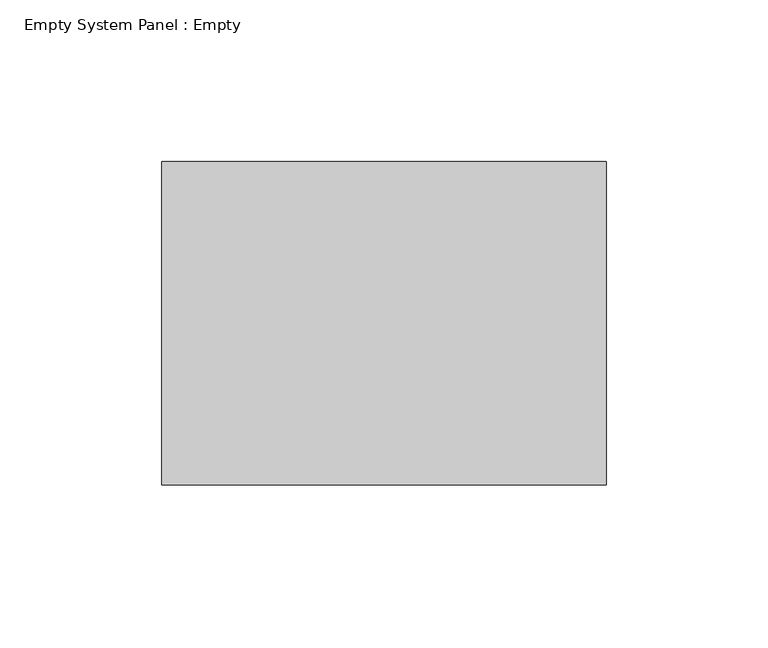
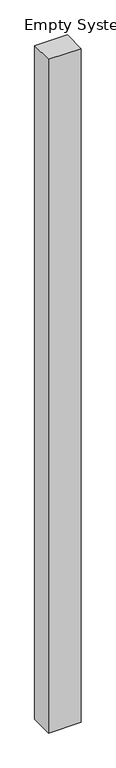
"""IFC4 building model written with IfcOpenShell, lengths in millimetres: plate geometry, Empty System Panel : Empty."""

from ifc_helpers import new_model, si_unit, origin, origin_with_axes, place, context, project, spatial, polyline, outline, extrude, source, transform, mapped, element, save


def empty_system_panel_empty_db8e642d(model_context):
    return source(origin(), model_context, "Body", "SweptSolid", [
        extrude(outline(polyline([(68.7500002, 50.0), (-68.7500002, 50.0), (-68.7500002, 150.0), (68.7500002, 150.0), (68.7500002, 50.0)])), origin_with_axes(), (0.0, 0.0, 1.0), 3000.0),
    ])


if __name__ == "__main__":
    model = new_model("IFC4")
    model_context = context("Model", 3, world=origin())
    ifc_project = project(units=[si_unit("LENGTHUNIT", "METRE", prefix="MILLI")], contexts=[model_context])
    site = spatial("IfcSite", under=ifc_project)
    building = spatial("IfcBuilding", under=site)
    placement = place(None, origin())
    empty_system_panel_empty_shape = empty_system_panel_empty_db8e642d(model_context)
    element("IfcPlate", 1, ObjectType="Empty System Panel : Empty", at=placement, inside=building, context=model_context, shape_type="MappedRepresentation", body=[
        mapped(empty_system_panel_empty_shape, transform((0.0, 0.0, 0.0), x_axis=(1.0, 0.0, 0.0), y_axis=(0.0, 1.0, 0.0), z_axis=(0.0, 0.0, 1.0))),
    ])
    save(model, "model.ifc")
